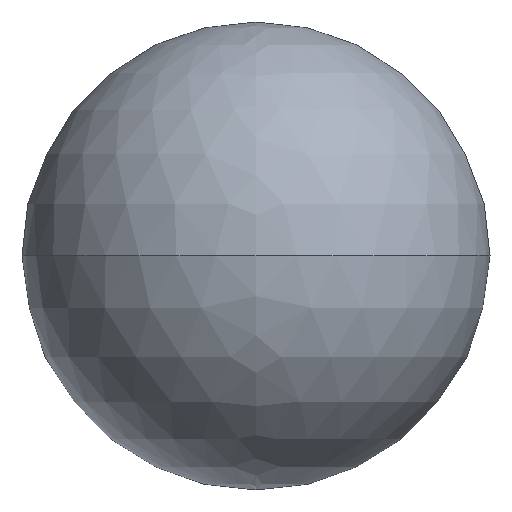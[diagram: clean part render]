
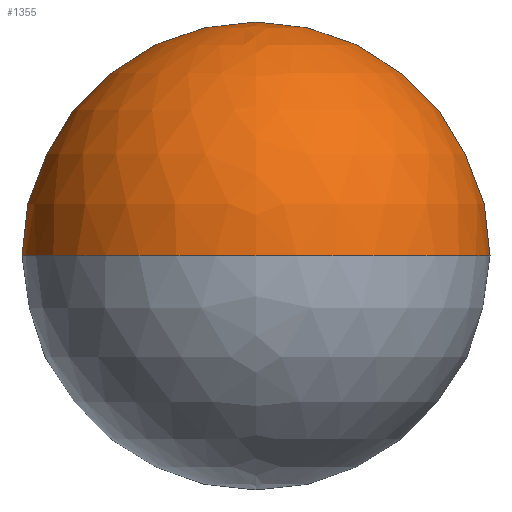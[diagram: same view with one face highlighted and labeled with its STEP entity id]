
A CAD part, top view. The second image highlights one B-rep face of the part: STEP entity #1355.
In plain terms, the highlighted spherical face has radius 75 mm.
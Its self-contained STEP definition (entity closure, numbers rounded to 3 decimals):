
#24=SPHERICAL_SURFACE('',#1524,75.);
#186=FACE_OUTER_BOUND('',#282,.T.);
#282=EDGE_LOOP('',(#1199,#1200,#1201));
#563=CIRCLE('',#1522,75.);
#565=CIRCLE('',#1525,75.);
#682=VERTEX_POINT('',#2343);
#684=VERTEX_POINT('',#2348);
#855=EDGE_CURVE('',#682,#682,#563,.T.);
#857=EDGE_CURVE('',#684,#682,#565,.T.);
#1199=ORIENTED_EDGE('',*,*,#855,.T.);
#1200=ORIENTED_EDGE('',*,*,#857,.F.);
#1201=ORIENTED_EDGE('',*,*,#857,.T.);
#1355=ADVANCED_FACE('',(#186),#24,.T.);
#1522=AXIS2_PLACEMENT_3D('',#2344,#1932,#1933);
#1524=AXIS2_PLACEMENT_3D('',#2347,#1936,#1937);
#1525=AXIS2_PLACEMENT_3D('',#2349,#1938,#1939);
#1932=DIRECTION('center_axis',(0.,1.,0.));
#1933=DIRECTION('ref_axis',(0.588,0.,-0.809));
#1936=DIRECTION('center_axis',(0.,1.,0.));
#1937=DIRECTION('ref_axis',(0.,0.,-1.));
#1938=DIRECTION('center_axis',(1.,0.,0.));
#1939=DIRECTION('ref_axis',(0.,0.,1.));
#2343=CARTESIAN_POINT('',(0.,0.,159.514));
#2344=CARTESIAN_POINT('Origin',(0.,0.,
84.514));
#2347=CARTESIAN_POINT('Origin',(0.,0.,84.514));
#2348=CARTESIAN_POINT('',(0.,75.,84.514));
#2349=CARTESIAN_POINT('Origin',(0.,0.,84.514));
